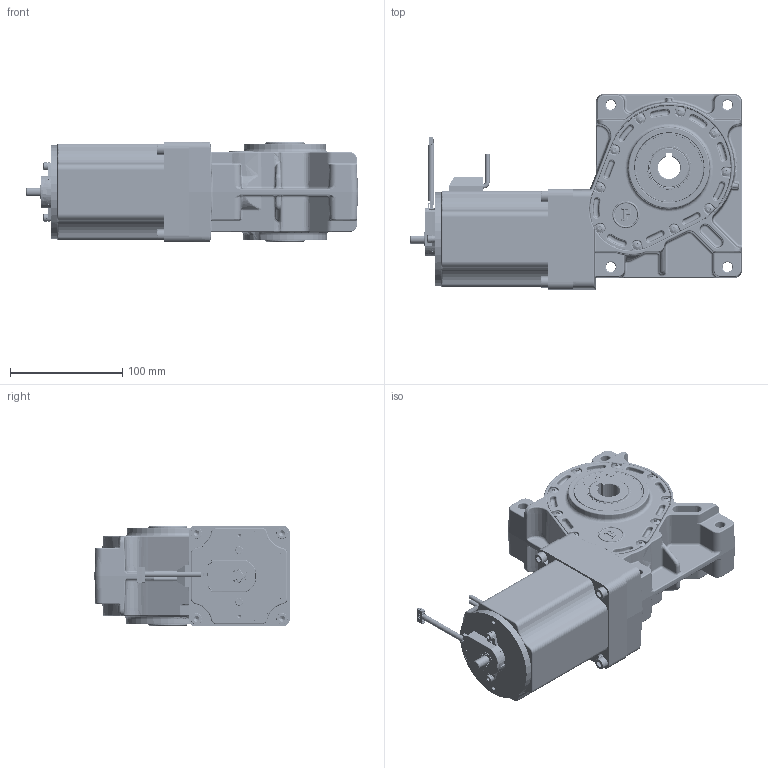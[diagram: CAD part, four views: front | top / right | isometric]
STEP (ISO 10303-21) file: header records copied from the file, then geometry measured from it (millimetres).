
FILE_DESCRIPTION (( 'STEP AP214' ), '1' );
FILE_NAME ('PBL86-55-GB65 - Encoder.STEP', '2024-09-16T11:15:40', ( '' ), ( '' ), 'SwSTEP 2.0', 'SolidWorks 2023', '' );
FILE_SCHEMA (( 'AUTOMOTIVE_DESIGN' ));
Length unit declared in the file: millimetre
Products named in the file (1): PBL86-55-GB65 - Encoder
Bounding box: 295.95 x 174.1 x 90 mm (x, y, z)
Surface area: 394116.8 mm2 (no closed solid volume)
Topology: 0 solids, 84 shells, 7533 faces, 19341 edges, 11986 vertices
Faces by surface type: plane 2543, cylinder 2032, bspline 1316, cone 778, torus 708, sphere 156
Entity records: 386772 total; most frequent: CARTESIAN_POINT 138243, ORIENTED_EDGE 38084, DIRECTION 29363, EDGE_CURVE 19044, VERTEX_POINT 11966, AXIS2_PLACEMENT_3D 11909, EDGE_LOOP 8092, UNCERTAINTY_MEASURE_WITH_UNIT 7589
